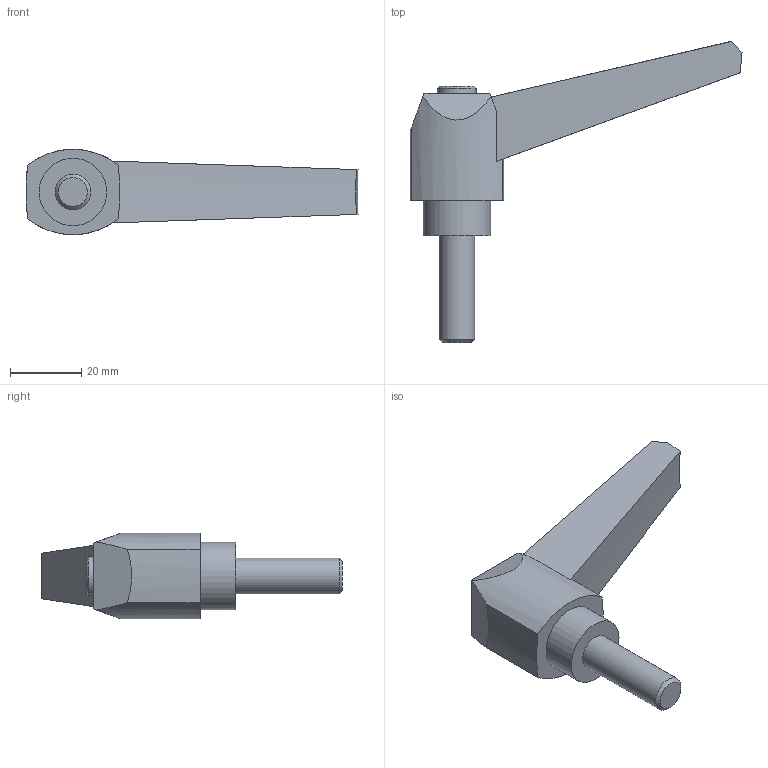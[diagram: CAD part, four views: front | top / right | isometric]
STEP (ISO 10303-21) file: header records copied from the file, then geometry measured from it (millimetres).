
FILE_DESCRIPTION( ( 'STEP AP203' ), '1' );
FILE_NAME( 'C:/Temp/Ganter_Step_05_03_2020/data/2_1/gn_500/gn_500_ms/Adjustable hand lever GN 500-80-M10-30-SW.stp', '2020-03-05T11:26:36', ( 'License CC BY-ND 4.0' ), ( 'CADENAS' ), ' ', 'PARTsolutions', ' ' );
FILE_SCHEMA( ( 'CONFIG_CONTROL_DESIGN' ) );
Length unit declared in the file: millimetre
Products named in the file (1): _Adjustable hand lever GN 500-80-M10-30-SW
Bounding box: 93.3 x 84.58 x 24 mm (x, y, z)
Volume: 35096.9 mm3; surface area: 8824.4 mm2
Topology: 1 solids, 1 shells, 24 faces, 56 edges, 37 vertices
Faces by surface type: plane 11, cylinder 7, cone 6
Full cylindrical faces by diameter (mm): 10 x1, 11 x1, 19 x1
Entity records: 709 total; most frequent: CARTESIAN_POINT 124, DIRECTION 118, ORIENTED_EDGE 100, EDGE_CURVE 50, AXIS2_PLACEMENT_3D 47, VERTEX_POINT 36, EDGE_LOOP 32, FACE_OUTER_BOUND 27
